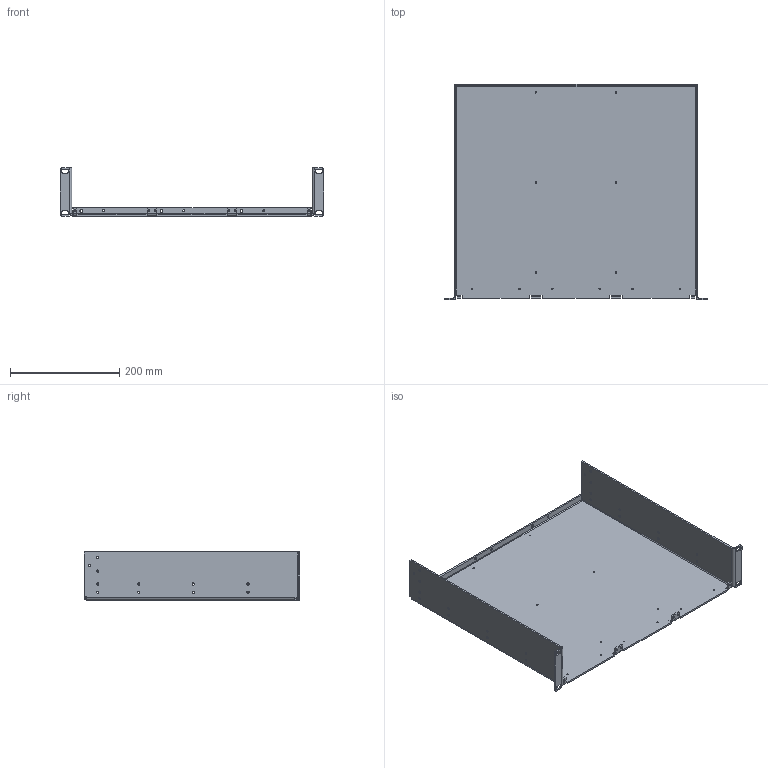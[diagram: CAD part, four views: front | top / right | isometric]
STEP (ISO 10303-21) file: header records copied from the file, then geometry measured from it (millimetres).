
FILE_DESCRIPTION(/* description */ ('','CAx-IF Rec.Pracs.---Representation and Presentation of Product Manufacturing Information (PMI)---4.0---2014-10-13'),/* implementation_level */ '2;1');
FILE_NAME(/* name */ 'E:\CAMTEC_2020_Pack and Go\Subrack_2U\2021075003.stp',/* time_stamp */ '2020-09-21T14:58:13+02:00',/* author */ ('rryba'),/* organization */ (''),/* preprocessor_version */ 'ST-DEVELOPER v18.1',/* originating_system */ 'Autodesk Inventor 2021',/* authorisation */ '');
FILE_SCHEMA (('AP242_MANAGED_MODEL_BASED_3D_ENGINEERING_MIM_LF { 1 0 10303 442 1 1 4 }'));
Length unit declared in the file: millimetre
Products named in the file (1): 2021075003
Bounding box: 483 x 395 x 88 mm (x, y, z)
Volume: 744457.6 mm3; surface area: 505239.8 mm2
Topology: 1 solids, 1 shells, 185 faces, 539 edges, 417 vertices
Faces by surface type: plane 106, cylinder 79
Full cylindrical faces by diameter (mm): 2.459 x18, 3.242 x4, 4.134 x22, 5 x3
Entity records: 6134 total; most frequent: CARTESIAN_POINT 1088, DIRECTION 1016, ORIENTED_EDGE 956, EDGE_CURVE 478, AXIS2_PLACEMENT_3D 349, LINE 318, VECTOR 318, VERTEX_POINT 295
